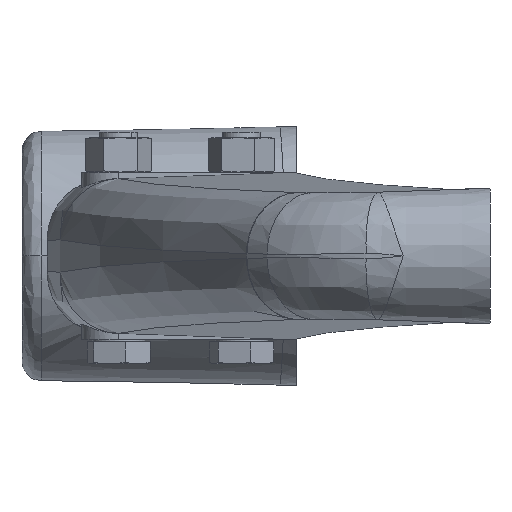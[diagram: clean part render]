
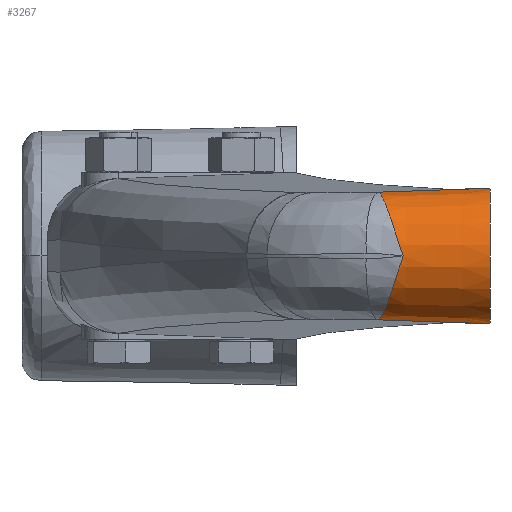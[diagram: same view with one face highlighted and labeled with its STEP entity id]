
A CAD part, left-side view. The second image highlights one B-rep face of the part: STEP entity #3267.
In plain terms, the highlighted conical face has half-angle 2 degrees and reference radius 21.21 mm.
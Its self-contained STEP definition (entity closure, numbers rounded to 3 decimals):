
#157 = CARTESIAN_POINT ( 'NONE',  ( -224.964, -23.787, 0. ) ) ;
#166 = CARTESIAN_POINT ( 'NONE',  ( -206.882, -16.101, -19.915 ) ) ;
#200 = CARTESIAN_POINT ( 'NONE',  ( -211.933, -17.122, -18.722 ) ) ;
#272 = CARTESIAN_POINT ( 'NONE',  ( -215.409, -17.983, 17.01 ) ) ;
#358 = CARTESIAN_POINT ( 'NONE',  ( -204.704, -50.997, 0. ) ) ;
#522 = EDGE_LOOP ( 'NONE', ( #1000, #2972, #9774, #6273, #4450 ) ) ;
#1000 = ORIENTED_EDGE ( 'NONE', *, *, #3184, .F. ) ;
#1004 = CARTESIAN_POINT ( 'NONE',  ( -205.58, -15.873, 19.964 ) ) ;
#1060 = B_SPLINE_CURVE_WITH_KNOTS ( 'NONE', 3,
 ( #6801, #2793, #9407, #8455, #4372, #10240, #8524, #5982, #6048, #272, #2720, #1152, #10136, #5299, #7671, #1004 ),
 .UNSPECIFIED., .F., .F.,
 ( 4, 2, 2, 2, 2, 2, 2, 4 ),
 ( 0., 0.25, 0.375, 0.5, 0.625, 0.75, 0.875, 1. ),
 .UNSPECIFIED. ) ;
#1115 = CARTESIAN_POINT ( 'NONE',  ( -224.935, -22.958, -2.511 ) ) ;
#1134 = LINE ( 'NONE', #9099, #4890 ) ;
#1152 = CARTESIAN_POINT ( 'NONE',  ( -211.933, -17.122, 18.721 ) ) ;
#2654 = CARTESIAN_POINT ( 'NONE',  ( -224.435, -22.159, -5.027 ) ) ;
#2720 = CARTESIAN_POINT ( 'NONE',  ( -214.286, -17.687, 17.656 ) ) ;
#2763 = EDGE_CURVE ( 'NONE', #10509, #9268, #1060, .T. ) ;
#2775 = DIRECTION ( 'NONE',  ( 0., -1., 0. ) ) ;
#2793 = CARTESIAN_POINT ( 'NONE',  ( -224.935, -22.958, 2.511 ) ) ;
#2972 = ORIENTED_EDGE ( 'NONE', *, *, #10160, .F. ) ;
#3184 = EDGE_CURVE ( 'NONE', #8906, #3998, #1134, .T. ) ;
#3191 = CARTESIAN_POINT ( 'NONE',  ( -205.634, -50.997, -21.19 ) ) ;
#3267 = ADVANCED_FACE ( 'NONE', ( #10433 ), #5389, .T. ) ;
#3463 = AXIS2_PLACEMENT_3D ( 'NONE', #358, #2775, #8641 ) ;
#3951 = EDGE_CURVE ( 'NONE', #9268, #9674, #6209, .T. ) ;
#3998 = VERTEX_POINT ( 'NONE', #5280 ) ;
#4312 = CARTESIAN_POINT ( 'NONE',  ( -220.248, -19.591, -12.829 ) ) ;
#4343 = CARTESIAN_POINT ( 'NONE',  ( -208.177, -16.342, -19.739 ) ) ;
#4372 = CARTESIAN_POINT ( 'NONE',  ( -222.422, -20.652, 9.682 ) ) ;
#4418 = CARTESIAN_POINT ( 'NONE',  ( -210.702, -16.853, -19.142 ) ) ;
#4450 = ORIENTED_EDGE ( 'NONE', *, *, #4854, .F. ) ;
#4459 = CARTESIAN_POINT ( 'NONE',  ( -205.545, 7.196, 19.159 ) ) ;
#4563 = CIRCLE ( 'NONE', #3463, 21.21 ) ;
#4808 = VECTOR ( 'NONE', #7691, 1000. ) ;
#4854 = EDGE_CURVE ( 'NONE', #3998, #10509, #8443, .T. ) ;
#4890 = VECTOR ( 'NONE', #8176, 1000. ) ;
#5164 = CARTESIAN_POINT ( 'NONE',  ( -223.009, -21.021, -8.55 ) ) ;
#5280 = CARTESIAN_POINT ( 'NONE',  ( -205.58, -15.873, -19.964 ) ) ;
#5299 = CARTESIAN_POINT ( 'NONE',  ( -208.177, -16.342, 19.739 ) ) ;
#5389 = CONICAL_SURFACE ( 'NONE', #9162, 21.21, 0.035 ) ;
#5853 = CARTESIAN_POINT ( 'NONE',  ( -205.58, -15.873, 19.964 ) ) ;
#5982 = CARTESIAN_POINT ( 'NONE',  ( -218.48, -18.923, 14.679 ) ) ;
#5985 = CARTESIAN_POINT ( 'NONE',  ( -224.964, -23.787, 0. ) ) ;
#6018 = CARTESIAN_POINT ( 'NONE',  ( -214.286, -17.687, -17.656 ) ) ;
#6048 = CARTESIAN_POINT ( 'NONE',  ( -217.506, -18.601, 15.522 ) ) ;
#6116 = CARTESIAN_POINT ( 'NONE',  ( -205.634, -50.997, 21.19 ) ) ;
#6209 = LINE ( 'NONE', #4459, #4808 ) ;
#6273 = ORIENTED_EDGE ( 'NONE', *, *, #2763, .F. ) ;
#6472 = CARTESIAN_POINT ( 'NONE',  ( -204.704, -50.997, 0. ) ) ;
#6586 = DIRECTION ( 'NONE',  ( 0., -1., 0. ) ) ;
#6773 = CARTESIAN_POINT ( 'NONE',  ( -215.409, -17.983, -17.01 ) ) ;
#6801 = CARTESIAN_POINT ( 'NONE',  ( -224.964, -23.787, 0. ) ) ;
#6842 = CARTESIAN_POINT ( 'NONE',  ( -205.58, -15.873, -19.964 ) ) ;
#6882 = CARTESIAN_POINT ( 'NONE',  ( -218.48, -18.923, -14.679 ) ) ;
#7572 = CARTESIAN_POINT ( 'NONE',  ( -217.506, -18.601, -15.522 ) ) ;
#7671 = CARTESIAN_POINT ( 'NONE',  ( -206.882, -16.101, 19.915 ) ) ;
#7691 = DIRECTION ( 'NONE',  ( -0.002, -0.999, 0.035 ) ) ;
#8176 = DIRECTION ( 'NONE',  ( 0.002, 0.999, 0.035 ) ) ;
#8443 = B_SPLINE_CURVE_WITH_KNOTS ( 'NONE', 3,
 ( #6842, #166, #4343, #4418, #200, #6018, #6773, #7572, #6882, #4312, #9341, #10071, #5164, #2654, #1115, #5985 ),
 .UNSPECIFIED., .F., .F.,
 ( 4, 2, 2, 2, 2, 2, 2, 4 ),
 ( 0., 0.125, 0.25, 0.375, 0.5, 0.625, 0.75, 1. ),
 .UNSPECIFIED. ) ;
#8455 = CARTESIAN_POINT ( 'NONE',  ( -223.009, -21.021, 8.55 ) ) ;
#8524 = CARTESIAN_POINT ( 'NONE',  ( -220.248, -19.591, 12.829 ) ) ;
#8641 = DIRECTION ( 'NONE',  ( 0., 0., -1. ) ) ;
#8906 = VERTEX_POINT ( 'NONE', #3191 ) ;
#9099 = CARTESIAN_POINT ( 'NONE',  ( -205.545, 7.196, -19.159 ) ) ;
#9140 = DIRECTION ( 'NONE',  ( 0., 0., -1. ) ) ;
#9162 = AXIS2_PLACEMENT_3D ( 'NONE', #6472, #6586, #9140 ) ;
#9268 = VERTEX_POINT ( 'NONE', #5853 ) ;
#9341 = CARTESIAN_POINT ( 'NONE',  ( -221.041, -19.937, -11.822 ) ) ;
#9407 = CARTESIAN_POINT ( 'NONE',  ( -224.435, -22.159, 5.027 ) ) ;
#9674 = VERTEX_POINT ( 'NONE', #6116 ) ;
#9774 = ORIENTED_EDGE ( 'NONE', *, *, #3951, .F. ) ;
#10071 = CARTESIAN_POINT ( 'NONE',  ( -222.422, -20.652, -9.682 ) ) ;
#10136 = CARTESIAN_POINT ( 'NONE',  ( -210.702, -16.853, 19.142 ) ) ;
#10160 = EDGE_CURVE ( 'NONE', #9674, #8906, #4563, .T. ) ;
#10240 = CARTESIAN_POINT ( 'NONE',  ( -221.041, -19.937, 11.822 ) ) ;
#10433 = FACE_OUTER_BOUND ( 'NONE', #522, .T. ) ;
#10509 = VERTEX_POINT ( 'NONE', #157 ) ;
